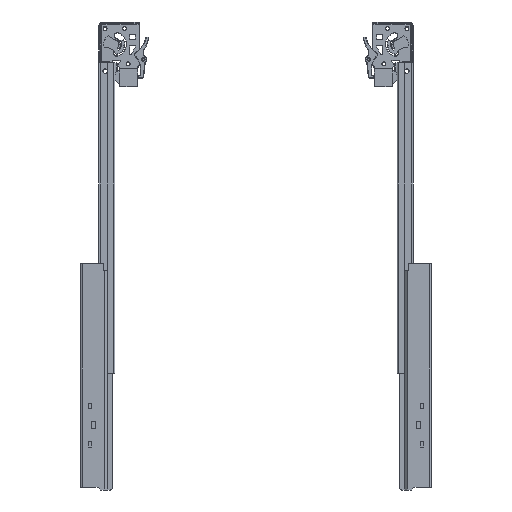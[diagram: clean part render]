
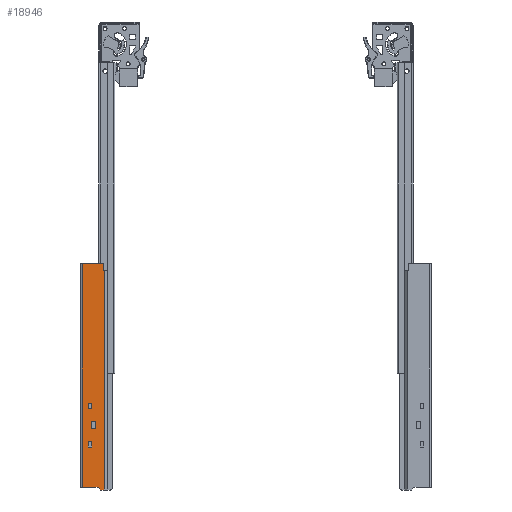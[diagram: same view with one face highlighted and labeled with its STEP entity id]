
A CAD part, front view. The second image highlights one B-rep face of the part: STEP entity #18946.
In plain terms, the highlighted planar face has unit normal (0, -1, 0).
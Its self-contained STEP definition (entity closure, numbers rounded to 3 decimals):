
#625=FACE_BOUND('',#3769,.T.);
#626=FACE_BOUND('',#3770,.T.);
#627=FACE_BOUND('',#3771,.T.);
#1345=CIRCLE('',#20166,0.5);
#1346=CIRCLE('',#20167,0.5);
#2606=FACE_OUTER_BOUND('',#3768,.T.);
#3768=EDGE_LOOP('',(#12137,#12138,#12139,#12140,#12141,#12142,#12143,#12144,
#12145,#12146));
#3769=EDGE_LOOP('',(#12147,#12148,#12149,#12150));
#3770=EDGE_LOOP('',(#12151,#12152,#12153,#12154));
#3771=EDGE_LOOP('',(#12155,#12156,#12157,#12158));
#5173=LINE('',#28568,#6445);
#5177=LINE('',#28576,#6449);
#5180=LINE('',#28582,#6452);
#5183=LINE('',#28587,#6455);
#5185=LINE('',#28593,#6457);
#5189=LINE('',#28601,#6461);
#5192=LINE('',#28607,#6464);
#5195=LINE('',#28612,#6467);
#5197=LINE('',#28618,#6469);
#5201=LINE('',#28626,#6473);
#5204=LINE('',#28632,#6476);
#5207=LINE('',#28637,#6479);
#5209=LINE('',#28643,#6481);
#5224=LINE('',#28691,#6496);
#5232=LINE('',#28711,#6504);
#5233=LINE('',#28715,#6505);
#5234=LINE('',#28717,#6506);
#5235=LINE('',#28719,#6507);
#5236=LINE('',#28723,#6508);
#5237=LINE('',#28726,#6509);
#6445=VECTOR('',#22522,6.);
#6449=VECTOR('',#22528,3.5);
#6452=VECTOR('',#22533,6.);
#6455=VECTOR('',#22538,3.5);
#6457=VECTOR('',#22544,6.);
#6461=VECTOR('',#22550,3.5);
#6464=VECTOR('',#22555,6.);
#6467=VECTOR('',#22560,3.5);
#6469=VECTOR('',#22566,8.);
#6473=VECTOR('',#22572,5.);
#6476=VECTOR('',#22577,8.);
#6479=VECTOR('',#22582,5.);
#6481=VECTOR('',#22588,4.243);
#6496=VECTOR('',#22623,18.);
#6504=VECTOR('',#22643,255.);
#6505=VECTOR('',#22648,4.);
#6506=VECTOR('',#22649,250.5);
#6507=VECTOR('',#22650,0.5);
#6508=VECTOR('',#22653,6.5);
#6509=VECTOR('',#22656,23.5);
#7717=VERTEX_POINT('',#28566);
#7718=VERTEX_POINT('',#28567);
#7721=VERTEX_POINT('',#28575);
#7723=VERTEX_POINT('',#28581);
#7725=VERTEX_POINT('',#28591);
#7726=VERTEX_POINT('',#28592);
#7729=VERTEX_POINT('',#28600);
#7731=VERTEX_POINT('',#28606);
#7733=VERTEX_POINT('',#28616);
#7734=VERTEX_POINT('',#28617);
#7737=VERTEX_POINT('',#28625);
#7739=VERTEX_POINT('',#28631);
#7741=VERTEX_POINT('',#28641);
#7742=VERTEX_POINT('',#28642);
#7765=VERTEX_POINT('',#28690);
#7771=VERTEX_POINT('',#28710);
#7772=VERTEX_POINT('',#28714);
#7773=VERTEX_POINT('',#28716);
#7774=VERTEX_POINT('',#28718);
#7775=VERTEX_POINT('',#28720);
#7776=VERTEX_POINT('',#28722);
#7777=VERTEX_POINT('',#28724);
#9351=EDGE_CURVE('',#7717,#7718,#5173,.T.);
#9355=EDGE_CURVE('',#7718,#7721,#5177,.T.);
#9358=EDGE_CURVE('',#7721,#7723,#5180,.T.);
#9361=EDGE_CURVE('',#7723,#7717,#5183,.T.);
#9363=EDGE_CURVE('',#7725,#7726,#5185,.T.);
#9367=EDGE_CURVE('',#7726,#7729,#5189,.T.);
#9370=EDGE_CURVE('',#7729,#7731,#5192,.T.);
#9373=EDGE_CURVE('',#7731,#7725,#5195,.T.);
#9375=EDGE_CURVE('',#7733,#7734,#5197,.T.);
#9379=EDGE_CURVE('',#7734,#7737,#5201,.T.);
#9382=EDGE_CURVE('',#7737,#7739,#5204,.T.);
#9385=EDGE_CURVE('',#7739,#7733,#5207,.T.);
#9387=EDGE_CURVE('',#7741,#7742,#5209,.T.);
#9411=EDGE_CURVE('',#7765,#7741,#5224,.T.);
#9421=EDGE_CURVE('',#7771,#7765,#5232,.T.);
#9423=EDGE_CURVE('',#7772,#7742,#5233,.T.);
#9424=EDGE_CURVE('',#7773,#7772,#5234,.T.);
#9425=EDGE_CURVE('',#7773,#7774,#5235,.T.);
#9426=EDGE_CURVE('',#7775,#7774,#1345,.T.);
#9427=EDGE_CURVE('',#7775,#7776,#5236,.T.);
#9428=EDGE_CURVE('',#7777,#7776,#1346,.T.);
#9429=EDGE_CURVE('',#7771,#7777,#5237,.T.);
#12137=ORIENTED_EDGE('',*,*,#9411,.T.);
#12138=ORIENTED_EDGE('',*,*,#9387,.T.);
#12139=ORIENTED_EDGE('',*,*,#9423,.F.);
#12140=ORIENTED_EDGE('',*,*,#9424,.F.);
#12141=ORIENTED_EDGE('',*,*,#9425,.T.);
#12142=ORIENTED_EDGE('',*,*,#9426,.F.);
#12143=ORIENTED_EDGE('',*,*,#9427,.T.);
#12144=ORIENTED_EDGE('',*,*,#9428,.F.);
#12145=ORIENTED_EDGE('',*,*,#9429,.F.);
#12146=ORIENTED_EDGE('',*,*,#9421,.T.);
#12147=ORIENTED_EDGE('',*,*,#9351,.T.);
#12148=ORIENTED_EDGE('',*,*,#9355,.T.);
#12149=ORIENTED_EDGE('',*,*,#9358,.T.);
#12150=ORIENTED_EDGE('',*,*,#9361,.T.);
#12151=ORIENTED_EDGE('',*,*,#9363,.T.);
#12152=ORIENTED_EDGE('',*,*,#9367,.T.);
#12153=ORIENTED_EDGE('',*,*,#9370,.T.);
#12154=ORIENTED_EDGE('',*,*,#9373,.T.);
#12155=ORIENTED_EDGE('',*,*,#9375,.T.);
#12156=ORIENTED_EDGE('',*,*,#9379,.T.);
#12157=ORIENTED_EDGE('',*,*,#9382,.T.);
#12158=ORIENTED_EDGE('',*,*,#9385,.T.);
#17420=PLANE('',#20165);
#18946=ADVANCED_FACE('',(#2606,#625,#626,#627),#17420,.T.);
#20165=AXIS2_PLACEMENT_3D('',#28713,#22646,#22647);
#20166=AXIS2_PLACEMENT_3D('',#28721,#22651,#22652);
#20167=AXIS2_PLACEMENT_3D('',#28725,#22654,#22655);
#22522=DIRECTION('',(0.,0.,1.));
#22528=DIRECTION('',(1.,0.,0.));
#22533=DIRECTION('',(0.,0.,-1.));
#22538=DIRECTION('',(-1.,0.,0.));
#22544=DIRECTION('',(0.,0.,1.));
#22550=DIRECTION('',(1.,0.,0.));
#22555=DIRECTION('',(0.,0.,-1.));
#22560=DIRECTION('',(-1.,0.,0.));
#22566=DIRECTION('',(0.,0.,1.));
#22572=DIRECTION('',(1.,0.,0.));
#22577=DIRECTION('',(0.,0.,-1.));
#22582=DIRECTION('',(-1.,0.,0.));
#22588=DIRECTION('',(0.707,0.,-0.707));
#22623=DIRECTION('',(1.,0.,0.));
#22643=DIRECTION('',(0.,0.,-1.));
#22646=DIRECTION('center_axis',(0.,-1.,0.));
#22647=DIRECTION('ref_axis',(-1.,0.,0.));
#22648=DIRECTION('',(-1.,0.,0.));
#22649=DIRECTION('',(0.,0.,-1.));
#22650=DIRECTION('',(-1.,0.,0.));
#22651=DIRECTION('center_axis',(0.,-1.,0.));
#22652=DIRECTION('ref_axis',(-0.707,0.,-0.707));
#22653=DIRECTION('',(0.,0.,1.));
#22654=DIRECTION('center_axis',(0.,1.,0.));
#22655=DIRECTION('ref_axis',(0.707,0.,0.707));
#22656=DIRECTION('',(1.,0.,0.));
#28566=CARTESIAN_POINT('',(9.,0.,-165.));
#28567=CARTESIAN_POINT('',(9.,0.,-159.));
#28568=CARTESIAN_POINT('',(9.,0.,-79.5));
#28575=CARTESIAN_POINT('',(12.5,0.,-159.));
#28576=CARTESIAN_POINT('',(19.75,0.,-159.));
#28581=CARTESIAN_POINT('',(12.5,0.,-165.));
#28582=CARTESIAN_POINT('',(12.5,0.,-82.5));
#28587=CARTESIAN_POINT('',(18.,0.,-165.));
#28591=CARTESIAN_POINT('',(9.,0.,-209.));
#28592=CARTESIAN_POINT('',(9.,0.,-203.));
#28593=CARTESIAN_POINT('',(9.,0.,-101.5));
#28600=CARTESIAN_POINT('',(12.5,0.,-203.));
#28601=CARTESIAN_POINT('',(19.75,0.,-203.));
#28606=CARTESIAN_POINT('',(12.5,0.,-209.));
#28607=CARTESIAN_POINT('',(12.5,0.,-104.5));
#28612=CARTESIAN_POINT('',(18.,0.,-209.));
#28616=CARTESIAN_POINT('',(12.5,0.,-188.));
#28617=CARTESIAN_POINT('',(12.5,0.,-180.));
#28618=CARTESIAN_POINT('',(12.5,0.,-90.));
#28625=CARTESIAN_POINT('',(17.5,0.,-180.));
#28626=CARTESIAN_POINT('',(22.25,0.,-180.));
#28631=CARTESIAN_POINT('',(17.5,0.,-188.));
#28632=CARTESIAN_POINT('',(17.5,0.,-94.));
#28637=CARTESIAN_POINT('',(19.75,0.,-188.));
#28641=CARTESIAN_POINT('',(20.,0.,-255.));
#28642=CARTESIAN_POINT('',(23.,0.,-258.));
#28643=CARTESIAN_POINT('',(-42.,0.,-193.));
#28690=CARTESIAN_POINT('',(2.,0.,-255.));
#28691=CARTESIAN_POINT('',(13.5,0.,-255.));
#28710=CARTESIAN_POINT('',(2.,0.,0.));
#28711=CARTESIAN_POINT('',(2.,0.,0.));
#28713=CARTESIAN_POINT('Origin',(27.,0.,0.));
#28714=CARTESIAN_POINT('',(27.,0.,-258.));
#28715=CARTESIAN_POINT('',(2.,0.,-258.));
#28716=CARTESIAN_POINT('',(27.,0.,-7.5));
#28717=CARTESIAN_POINT('',(27.,0.,0.));
#28718=CARTESIAN_POINT('',(26.5,0.,-7.5));
#28719=CARTESIAN_POINT('',(30.,0.,-7.5));
#28720=CARTESIAN_POINT('',(26.,0.,-7.));
#28721=CARTESIAN_POINT('Origin',(26.5,0.,
-7.));
#28722=CARTESIAN_POINT('',(26.,0.,-0.5));
#28723=CARTESIAN_POINT('',(26.,0.,-3.75));
#28724=CARTESIAN_POINT('',(25.5,0.,0.));
#28725=CARTESIAN_POINT('Origin',(25.5,0.,
-0.5));
#28726=CARTESIAN_POINT('',(2.,0.,0.));
